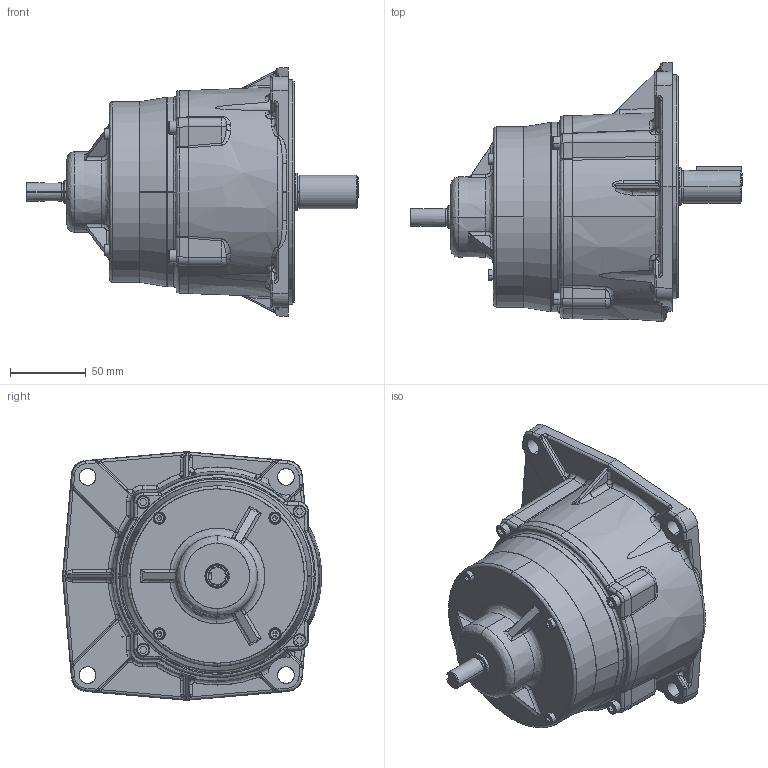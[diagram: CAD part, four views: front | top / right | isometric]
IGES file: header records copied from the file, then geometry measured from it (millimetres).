
Start section: SolidWorks IGES file using analytic representation for surfaces
Bounding box: 219 x 170.86 x 164 mm (x, y, z)
Surface area: 218175 mm2 (no closed solid volume)
Topology: 0 solids, 0 shells, 795 faces, 10455 edges, 10442 vertices
Faces by surface type: bspline 479, revolution 316
